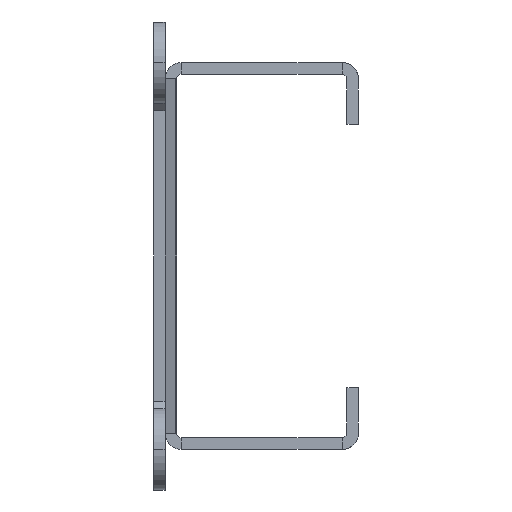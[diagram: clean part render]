
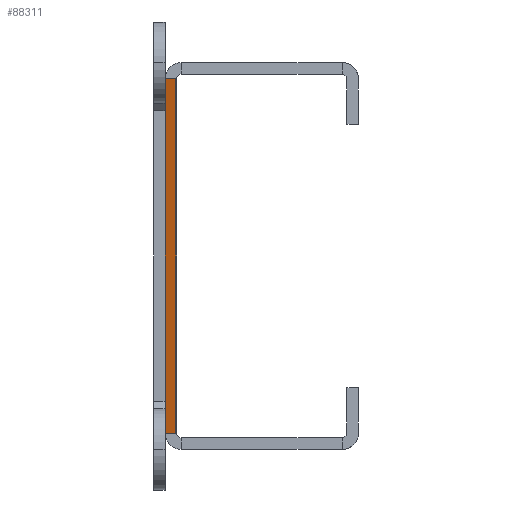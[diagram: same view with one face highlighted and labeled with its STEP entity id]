
A CAD part, left-side view. The second image highlights one B-rep face of the part: STEP entity #88311.
In plain terms, the highlighted planar face has unit normal (-0.342, -0.94, 0).
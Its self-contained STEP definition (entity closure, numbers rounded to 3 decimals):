
#67656=CARTESIAN_POINT(' ',(-239.612,-1.373,-22.9));
#67657=VERTEX_POINT(' ',#67656);
#68196=CARTESIAN_POINT(' ',(-239.612,-1.373,22.9));
#68197=VERTEX_POINT(' ',#68196);
#68311=CARTESIAN_POINT(' ',(-239.612,-1.373,22.9));
#68316=DIRECTION(' ',(0.,0.,-1.));
#68321=VECTOR(' ',#68316,1.);
#68326=LINE('',#68311,#68321);
#68331=EDGE_CURVE(' ',#68197,#67657,#68326,.T.);
#87616=CARTESIAN_POINT(' ',(-243.286,-0.036,-22.9));
#87617=VERTEX_POINT(' ',#87616);
#87666=CARTESIAN_POINT(' ',(-239.612,-1.373,-22.9));
#87671=DIRECTION(' ',(-0.94,0.342,0.));
#87676=VECTOR(' ',#87671,1.);
#87681=LINE('',#87666,#87676);
#87686=EDGE_CURVE(' ',#67657,#87617,#87681,.T.);
#88111=CARTESIAN_POINT(' ',(-243.286,-0.036,22.9));
#88116=DIRECTION(' ',(0.94,-0.342,0.));
#88121=VECTOR(' ',#88116,1.);
#88126=LINE('',#88111,#88121);
#88131=CARTESIAN_POINT(' ',(-243.286,-0.036,22.9));
#88132=VERTEX_POINT(' ',#88131);
#88136=EDGE_CURVE(' ',#88132,#68197,#88126,.T.);
#88231=DIRECTION(' ',(-0.342,-0.94,-0.));
#88236=CARTESIAN_POINT(' ',(-239.612,-1.373,22.9));
#88241=DIRECTION(' ',(-0.94,0.342,0.));
#88246=AXIS2_PLACEMENT_3D(' ',#88236,#88231,#88241);
#88251=PLANE('NONE',#88246);
#88256=ORIENTED_EDGE(' ',*,*,#87686,.F.);
#88261=ORIENTED_EDGE(' ',*,*,#68331,.F.);
#88266=ORIENTED_EDGE(' ',*,*,#88136,.F.);
#88271=CARTESIAN_POINT(' ',(-243.286,-0.036,22.9));
#88276=DIRECTION(' ',(0.,0.,-1.));
#88281=VECTOR(' ',#88276,1.);
#88286=LINE('',#88271,#88281);
#88291=EDGE_CURVE(' ',#88132,#87617,#88286,.T.);
#88296=ORIENTED_EDGE(' ',*,*,#88291,.T.);
#88301=EDGE_LOOP(' ',(#88256,#88261,#88266,#88296));
#88306=FACE_OUTER_BOUND(' ',#88301,.T.);
#88311=ADVANCED_FACE('NONE',(#88306),#88251,.T.);
